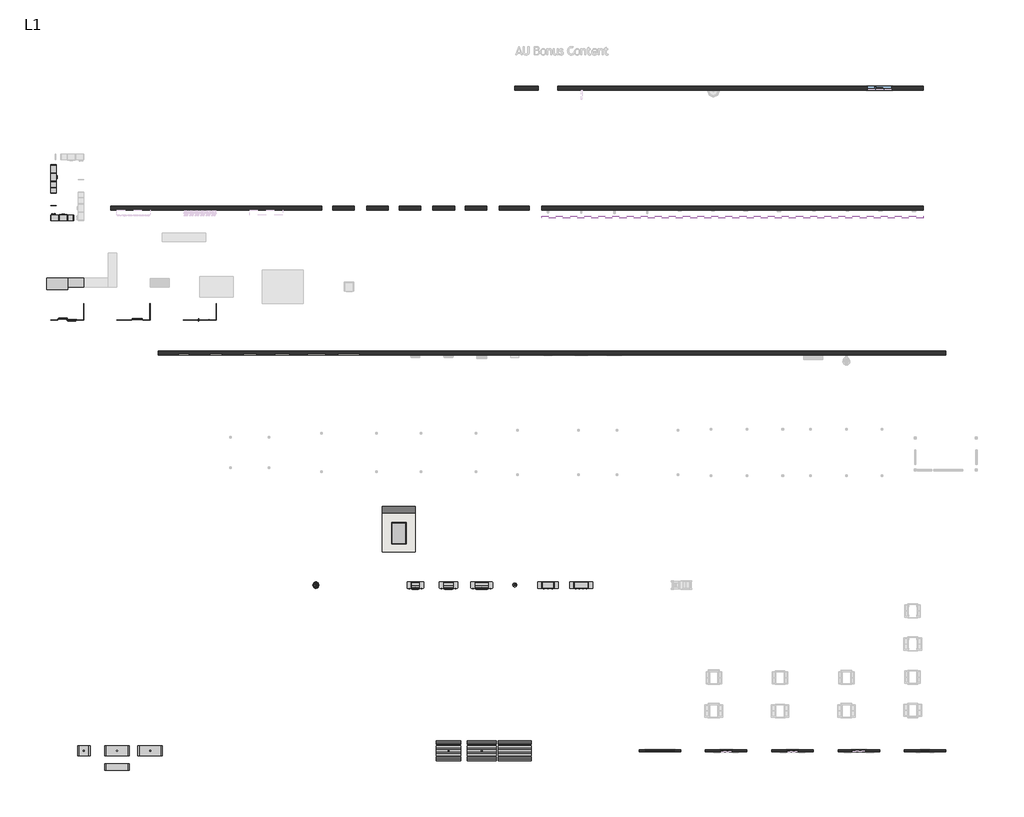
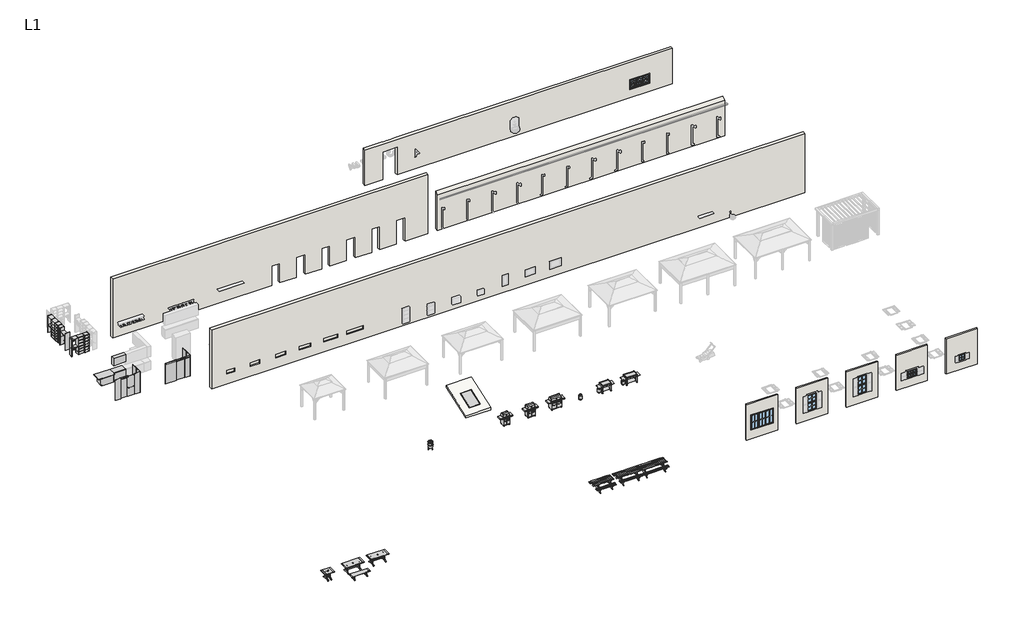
# One storey, part 1 of 3: 15 plates, 11 furniture elements, 9 walls, 8 proxies, 6 windows, 1 pipe segment, 1 roof.
"""IFC4 building model written with IfcOpenShell, lengths in millimetres."""

from ifc_helpers import new_model, si_unit, frame, origin, place, context, project, spatial, polyline, outline, extrude, faceted_brep, transform, mapped, element, save
from components import specialty_equipment_ef091b00, specialty_equipment_e586fb58, flat_top_grill_large_7945bf35, flat_top_grill_small_9eb78ae7, gas_grill_large_af3ab6b7, gas_grill_large_a40fce51, gas_grill_medium_e833fd83, gas_grill_medium_64ab5653, gas_grill_small_96ad8991, solar_panel_standard_bde9ee84, closet_system_one_to_five_bays_closet_system_one_to_five_4d39121e, closet_system_one_to_five_bays_closet_system_one_to_five_d383a4f7, closet_system_one_to_five_bays_closet_system_one_to_five_eccb5896, outdoor_bench_d23ae258, outdoor_table_70c10171, outdoor_table_2cdf0183, picnic_table_6_long_ec7e8ce9, picnic_table_7_long_e703f63e, picnic_table_8_long_d58fb6b3, shower_door_bypass_shower_door_bypass_8a8439de, shower_door_slider_shower_door_slider_6a6f9825, shower_door_swing_shower_door_swing_2a943b00, system_panel_shower_enclosure_54e57cb4, system_panel_shower_enclosure_00ead15c, system_panel_shower_enclosure_034c214d, window_7ac30025, window_a763ad01, window_ae7c3b18, window_735a8cd5, window_b182885c, window_8e2d2a50

model = new_model("IFC4")

# Units and contexts
model_context = context("Model", 3, world=origin())
ifc_project = project(units=[si_unit("LENGTHUNIT", "METRE", prefix="MILLI")], contexts=[model_context])

# Site, building, storey
site = spatial("IfcSite", under=ifc_project)
building = spatial("IfcBuilding", under=site)
storey = spatial("IfcBuildingStorey", under=building, Name="L1", Elevation=0.0)

# Proxies
placement = place(None, origin())
specialty_equipment_shape = specialty_equipment_ef091b00(model_context)
element("IfcBuildingElementProxy", 1, Name="Vertical Smoker : Vertical Smoker", ObjectType="Vertical Smoker : Vertical Smoker", at=placement, inside=storey, context=model_context, shape_type="MappedRepresentation", body=[
    mapped(specialty_equipment_shape, transform((-13050.2137503, -13316.2647312, 0.0), x_axis=(1.0, 0.0, 0.0), y_axis=(0.0, 1.0, 0.0), z_axis=(0.0, 0.0, 1.0))),
])
specialty_equipment_2_shape = specialty_equipment_e586fb58(model_context)
element("IfcBuildingElementProxy", 2, Name="Propane Tank : Propane Tank", ObjectType="Propane Tank : Propane Tank", at=placement, inside=storey, context=model_context, shape_type="MappedRepresentation", body=[
    mapped(specialty_equipment_2_shape, transform((1580.1862497, -13316.2647312, 0.0), x_axis=(1.0, 0.0, 0.0), y_axis=(0.0, 1.0, 0.0), z_axis=(0.0, 0.0, 1.0))),
])
flat_top_grill_large_shape = flat_top_grill_large_7945bf35(model_context)
element("IfcBuildingElementProxy", 3, Name="Flat Top Grill : Large", ObjectType="Flat Top Grill : Large", at=placement, inside=storey, context=model_context, shape_type="MappedRepresentation", body=[
    mapped(flat_top_grill_large_shape, transform((6456.9862497, -13316.2647312, 0.0), x_axis=(1.0, 0.0, 0.0), y_axis=(0.0, 1.0, 0.0), z_axis=(0.0, 0.0, 1.0))),
])
flat_top_grill_small_shape = flat_top_grill_small_9eb78ae7(model_context)
element("IfcBuildingElementProxy", 4, Name="Flat Top Grill : Small", ObjectType="Flat Top Grill : Small", at=placement, inside=storey, context=model_context, shape_type="MappedRepresentation", body=[
    mapped(flat_top_grill_small_shape, transform((4018.5862497, -13316.2647312, 0.0), x_axis=(1.0, 0.0, 0.0), y_axis=(0.0, 1.0, 0.0), z_axis=(0.0, 0.0, 1.0))),
])
gas_grill_large_shape = gas_grill_large_af3ab6b7(model_context)
gas_grill_large_2_shape = gas_grill_large_a40fce51(model_context)
element("IfcBuildingElementProxy", 5, Name="Gas Grill : Large", ObjectType="Gas Grill : Large", at=placement, inside=storey, context=model_context, shape_type="MappedRepresentation", body=[
    mapped(gas_grill_large_shape, transform((-858.2137503, -13316.2647312, 0.0), x_axis=(1.0, 0.0, 0.0), y_axis=(0.0, 1.0, 0.0), z_axis=(0.0, 0.0, 1.0))),
    mapped(gas_grill_large_2_shape, transform((-858.2137503, -13316.2647312, 0.0), x_axis=(1.0, 0.0, 0.0), y_axis=(0.0, 1.0, 0.0), z_axis=(0.0, 0.0, 1.0))),
])
gas_grill_medium_shape = gas_grill_medium_e833fd83(model_context)
gas_grill_medium_2_shape = gas_grill_medium_64ab5653(model_context)
element("IfcBuildingElementProxy", 6, Name="Gas Grill : Medium", ObjectType="Gas Grill : Medium", at=placement, inside=storey, context=model_context, shape_type="MappedRepresentation", body=[
    mapped(gas_grill_medium_shape, transform((-3296.6137503, -13316.2647312, 0.0), x_axis=(1.0, 0.0, 0.0), y_axis=(0.0, 1.0, 0.0), z_axis=(0.0, 0.0, 1.0))),
    mapped(gas_grill_medium_2_shape, transform((-3296.6137503, -13316.2647312, 0.0), x_axis=(1.0, 0.0, 0.0), y_axis=(0.0, 1.0, 0.0), z_axis=(0.0, 0.0, 1.0))),
])
gas_grill_small_shape = gas_grill_small_96ad8991(model_context)
element("IfcBuildingElementProxy", 7, Name="Gas Grill : Small", ObjectType="Gas Grill : Small", at=placement, inside=storey, context=model_context, shape_type="MappedRepresentation", body=[
    mapped(gas_grill_small_shape, transform((-5735.0137503, -13316.2647312, 0.0), x_axis=(1.0, 0.0, 0.0), y_axis=(0.0, 1.0, 0.0), z_axis=(0.0, 0.0, 1.0))),
])
solar_panel_standard_shape = solar_panel_standard_bde9ee84(model_context)
element("IfcBuildingElementProxy", 8, Name="Solar Panel : Standard", ObjectType="Solar Panel : Standard", at=placement, inside=storey, context=model_context, shape_type="MappedRepresentation", body=[
    mapped(solar_panel_standard_shape, transform((-6954.2137503, -9486.0191271, 704.9140924), x_axis=(1.0, 0.0, 0.0), y_axis=(0.0, 0.9486832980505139, 0.316227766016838), z_axis=(0.0, -0.316227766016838, 0.9486832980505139))),
])

# Furniture
element("IfcFurniture", 9, ObjectType="Casework Schematic - Base and Upper : Casework Schematic - Base and Upper", at=placement, inside=storey, context=model_context, shape_type="Brep", body=[
    faceted_brep([(-31312.8137503, 9264.3352688, 876.3), (-31312.8137503, 8629.3352688, 876.3), (-31312.8137503, 8426.1352688, 876.3), (-32824.1137503, 8426.1352688, 876.3), (-32862.2137503, 8426.1352688, 876.3), (-32862.2137503, 9264.3352688, 876.3), (-32824.1137503, 9264.3352688, 876.3), (-31312.8137503, 8426.1352688, 914.4), (-31312.8137503, 8629.3352688, 914.4), (-31312.8137503, 9264.3352688, 914.4), (-32862.2137503, 9264.3352688, 914.4), (-32862.2137503, 8426.1352688, 914.4), (-32862.2137503, 9264.3352688, 889.0), (-32862.2137503, 8426.1352688, 889.0)], [[[0, 1, 2, 3, 4, 5, 6]], [[7, 8, 9, 10, 11]], [[10, 9, 0, 6, 5, 12]], [[7, 2, 1, 0, 9, 8]], [[2, 7, 11, 13, 4, 3]], [[5, 4, 13, 11, 10, 12]]]),
    faceted_brep([(-32557.4137503, 8629.3352688, 876.3), (-32557.4137503, 9238.9352688, 876.3), (-32557.4137503, 9238.9352688, 101.6), (-32557.4137503, 8629.3352688, 101.6), (-31312.8137503, 8629.3352688, 876.3), (-31312.8137503, 8629.3352688, 0.0), (-31312.8137503, 9150.0352688, 0.0), (-31312.8137503, 9150.0352688, 101.6), (-31312.8137503, 9238.9352688, 101.6), (-31312.8137503, 9238.9352688, 876.3), (-32468.5137503, 9150.0352688, 101.6), (-32468.5137503, 8629.3352688, 101.6), (-32468.5137503, 9150.0352688, 0.0), (-32468.5137503, 8629.3352688, 0.0)], [[[0, 1, 2, 3]], [[4, 5, 6, 7, 8, 9]], [[8, 2, 1, 9]], [[8, 7, 10, 11, 3, 2]], [[7, 6, 12, 10]], [[6, 5, 13, 12]], [[5, 4, 0, 3, 11, 13]], [[1, 0, 4, 9]], [[11, 10, 12, 13]]]),
])
element("IfcFurniture", 10, ObjectType="Casework Schematic - Base and Upper : Casework Schematic - Base and Upper", at=placement, inside=storey, context=model_context, shape_type="SolidModel", body=[
    faceted_brep([(-30119.0137503, 8629.3352688, 876.3), (-30131.7137503, 8629.3352688, 876.3), (-30157.1137503, 8629.3352688, 876.3), (-31274.7137503, 8629.3352688, 876.3), (-31300.1137503, 8629.3352688, 876.3), (-31312.8137503, 8629.3352688, 876.3), (-31312.8137503, 8642.0352688, 876.3), (-31312.8137503, 9264.3352688, 876.3), (-31300.1137503, 9264.3352688, 876.3), (-31274.7137503, 9264.3352688, 876.3), (-30157.1137503, 9264.3352688, 876.3), (-30131.7137503, 9264.3352688, 876.3), (-30119.0137503, 9264.3352688, 876.3), (-30119.0137503, 8642.0352688, 876.3), (-30119.0137503, 9264.3352688, 914.4), (-30131.7137503, 9264.3352688, 914.4), (-31300.1137503, 9264.3352688, 914.4), (-31312.8137503, 9264.3352688, 914.4), (-31312.8137503, 8642.0352688, 914.4), (-31312.8137503, 8629.3352688, 914.4), (-31300.1137503, 8629.3352688, 914.4), (-30131.7137503, 8629.3352688, 914.4), (-30119.0137503, 8629.3352688, 914.4), (-30119.0137503, 8642.0352688, 914.4), (-31312.8137503, 9264.3352688, 889.0), (-30119.0137503, 9264.3352688, 889.0), (-31312.8137503, 8629.3352688, 889.0), (-30119.0137503, 8629.3352688, 889.0)], [[[0, 1, 2, 3, 4, 5, 6, 7, 8, 9, 10, 11, 12, 13]], [[14, 15, 16, 17, 18, 19, 20, 21, 22, 23]], [[12, 11, 10, 9, 8, 7, 24, 17, 16, 15, 14, 25]], [[6, 5, 26, 19, 18, 17, 24, 7]], [[1, 0, 27, 22, 21, 20, 19, 26, 5, 4, 3, 2]], [[27, 0, 13, 12, 25, 14, 23, 22]]]),
    faceted_brep([(-31312.8137503, 8629.3352688, 876.3), (-31312.8137503, 9238.9352688, 876.3), (-31312.8137503, 9238.9352688, 101.6), (-31312.8137503, 9150.0352688, 101.6), (-31312.8137503, 9150.0352688, 0.0), (-31312.8137503, 8629.3352688, 0.0), (-31312.8137503, 8629.3352688, 101.6), (-30119.0137503, 8629.3352688, 876.3), (-30119.0137503, 8629.3352688, 101.6), (-30119.0137503, 8629.3352688, 0.0), (-30119.0137503, 9150.0352688, 0.0), (-30119.0137503, 9150.0352688, 101.6), (-30119.0137503, 9238.9352688, 101.6), (-30119.0137503, 9238.9352688, 876.3), (-30131.7137503, 8629.3352688, 0.0), (-31300.1137503, 8629.3352688, 0.0)], [[[0, 1, 2, 3, 4, 5, 6]], [[7, 8, 9, 10, 11, 12, 13]], [[2, 1, 13, 12]], [[3, 2, 12, 11]], [[4, 3, 11, 10]], [[5, 4, 10, 9, 14, 15]], [[0, 6, 5, 15, 14, 9, 8, 7]], [[1, 0, 7, 13]]]),
    extrude(outline(polyline([(-31312.8137503, 8629.3352688), (-31312.8137503, 8959.5352688), (-30119.0137503, 8959.5352688), (-30119.0137503, 8629.3352688), (-31312.8137503, 8629.3352688)])), frame((0.0, 0.0, 1676.4), z_axis=(0.0, 0.0, 1.0), x_axis=(1.0, 0.0, 0.0)), (0.0, 0.0, 1.0), 762.0),
])
closet_system_one_to_five_bays_closet_system_one_to_five_shape = closet_system_one_to_five_bays_closet_system_one_to_five_4d39121e(model_context)
closet_system_one_to_five_bays_closet_system_one_to_five_2_shape = closet_system_one_to_five_bays_closet_system_one_to_five_d383a4f7(model_context)
element("IfcFurniture", 11, ObjectType="Closet System (One to Five Bays) : Closet System (One to Five Bays)", at=placement, inside=storey, context=model_context, shape_type="MappedRepresentation", body=[
    mapped(closet_system_one_to_five_bays_closet_system_one_to_five_shape, transform((-32557.4137503, 13506.1352688, 0.0), x_axis=(1.0, 0.0, 0.0), y_axis=(0.0, 1.0, 0.0), z_axis=(0.0, 0.0, 1.0))),
    mapped(closet_system_one_to_five_bays_closet_system_one_to_five_2_shape, transform((-32557.4137503, 13506.1352688, 0.0), x_axis=(1.0, 0.0, 0.0), y_axis=(0.0, 1.0, 0.0), z_axis=(0.0, 0.0, 1.0))),
])
closet_system_one_to_five_bays_closet_system_one_to_five_3_shape = closet_system_one_to_five_bays_closet_system_one_to_five_eccb5896(model_context)
element("IfcFurniture", 12, ObjectType="Closet System (One to Five Bays) : Closet System (One to Five Bays)", at=placement, inside=storey, context=model_context, shape_type="MappedRepresentation", body=[
    mapped(closet_system_one_to_five_bays_closet_system_one_to_five_3_shape, transform((-32557.4137503, 17620.9352688, 0.0), x_axis=(0.0, -1.0, 0.0), y_axis=(1.0, 0.0, 0.0), z_axis=(0.0, 0.0, 1.0))),
])
outdoor_bench_shape = outdoor_bench_d23ae258(model_context)
element("IfcFurniture", 13, ObjectType="Outdoor Bench : 5'-11\"L x 1'-6\"W", at=placement, inside=storey, context=model_context, shape_type="MappedRepresentation", body=[
    mapped(outdoor_bench_shape, transform((-27680.6137503, -26702.0647312, 0.0), x_axis=(1.0, 0.0, 0.0), y_axis=(0.0, 1.0, 0.0), z_axis=(0.0, 0.0, 1.0))),
])
outdoor_table_shape = outdoor_table_70c10171(model_context)
element("IfcFurniture", 14, ObjectType="Outdoor Table : 5'-11\"L x 2'-6\"W", at=placement, inside=storey, context=model_context, shape_type="MappedRepresentation", body=[
    mapped(outdoor_table_shape, transform((-27680.6137503, -25508.2647312, 0.0), x_axis=(1.0, 0.0, 0.0), y_axis=(0.0, 1.0, 0.0), z_axis=(0.0, 0.0, 1.0))),
])
element("IfcFurniture", 15, ObjectType="Outdoor Table : 5'-11\"L x 2'-6\"W", at=placement, inside=storey, context=model_context, shape_type="MappedRepresentation", body=[
    mapped(outdoor_table_shape, transform((-25242.2137503, -25508.2647312, 0.0), x_axis=(1.0, 0.0, 0.0), y_axis=(0.0, 1.0, 0.0), z_axis=(0.0, 0.0, 1.0))),
])
outdoor_table_2_shape = outdoor_table_2cdf0183(model_context)
element("IfcFurniture", 16, ObjectType="Outdoor Table : 3'-0\"L x 2'-6\"W", at=placement, inside=storey, context=model_context, shape_type="MappedRepresentation", body=[
    mapped(outdoor_table_2_shape, transform((-30119.0137503, -25508.2647312, 0.0), x_axis=(1.0, 0.0, 0.0), y_axis=(0.0, 1.0, 0.0), z_axis=(0.0, 0.0, 1.0))),
])
picnic_table_6_long_shape = picnic_table_6_long_ec7e8ce9(model_context)
element("IfcFurniture", 17, ObjectType="Picnic Table : 6' Long", at=placement, inside=storey, context=model_context, shape_type="MappedRepresentation", body=[
    mapped(picnic_table_6_long_shape, transform((-3296.6137503, -25508.2647312, 0.0), x_axis=(1.0, 0.0, 0.0), y_axis=(0.0, 1.0, 0.0), z_axis=(0.0, 0.0, 1.0))),
])
picnic_table_7_long_shape = picnic_table_7_long_e703f63e(model_context)
element("IfcFurniture", 18, ObjectType="Picnic Table : 7' Long", at=placement, inside=storey, context=model_context, shape_type="MappedRepresentation", body=[
    mapped(picnic_table_7_long_shape, transform((-858.2137503, -25508.2647312, 0.0), x_axis=(1.0, 0.0, 0.0), y_axis=(0.0, 1.0, 0.0), z_axis=(0.0, 0.0, 1.0))),
])
picnic_table_8_long_shape = picnic_table_8_long_d58fb6b3(model_context)
element("IfcFurniture", 19, ObjectType="Picnic Table : 8' Long", at=placement, inside=storey, context=model_context, shape_type="MappedRepresentation", body=[
    mapped(picnic_table_8_long_shape, transform((1580.1862497, -25508.2647312, 0.0), x_axis=(1.0, 0.0, 0.0), y_axis=(0.0, 1.0, 0.0), z_axis=(0.0, 0.0, 1.0))),
])

# Pipe segment
element("IfcPipeSegment", 20, ObjectType="Gutter - Bevel 5\" x 5\"", at=placement, inside=storey, context=model_context, shape_type="SweptSolid", body=[
    extrude(outline(polyline([(13824.5781195, 3473.5377675), (13748.3781195, 3473.5377675), (13710.2781195, 3575.05), (13697.5781195, 3575.05), (13697.5781195, 3587.75), (13710.2781195, 3587.75), (13710.2781195, 3584.575), (13700.7531195, 3584.575), (13700.7531195, 3578.225), (13712.6404168, 3578.225), (13750.7404168, 3476.7127675), (13821.4031195, 3476.7127675), (13821.4031195, 3600.45), (13824.5781195, 3600.45), (13824.5781195, 3473.5377675)])), frame((3561.3862497, 0.0, 0.0), z_axis=(1.0, 0.0, 0.0), x_axis=(0.0, 1.0, 0.0)), (0.0, 0.0, 1.0), 28041.6),
])

# Plates
shower_door_bypass_shower_door_bypass_shape = shower_door_bypass_shower_door_bypass_8a8439de(model_context)
element("IfcPlate", 21, ObjectType="Shower Door - Bypass : Shower Door - Bypass", at=placement, inside=storey, context=model_context, shape_type="MappedRepresentation", body=[
    mapped(shower_door_bypass_shower_door_bypass_shape, transform((-31338.2137503, 6190.9352688, 0.0), x_axis=(1.0, 0.0, 0.0), y_axis=(0.0, 1.0, 0.0), z_axis=(0.0, 0.0, 1.0))),
])
shower_door_slider_shower_door_slider_shape = shower_door_slider_shower_door_slider_6a6f9825(model_context)
element("IfcPlate", 22, ObjectType="Shower Door - Slider : Shower Door - Slider", at=placement, inside=storey, context=model_context, shape_type="MappedRepresentation", body=[
    mapped(shower_door_slider_shower_door_slider_shape, transform((-26194.7137503, 6190.9352688, 0.0), x_axis=(1.0, 0.0, 0.0), y_axis=(0.0, 1.0, 0.0), z_axis=(0.0, 0.0, 1.0))),
])
shower_door_swing_shower_door_swing_shape = shower_door_swing_shower_door_swing_2a943b00(model_context)
element("IfcPlate", 23, ObjectType="Shower Door - Swing : Shower Door - Swing", at=placement, inside=storey, context=model_context, shape_type="MappedRepresentation", body=[
    mapped(shower_door_swing_shower_door_swing_shape, transform((-21317.9137503, 6190.9352688, 0.0), x_axis=(1.0, 0.0, 0.0), y_axis=(0.0, 1.0, 0.0), z_axis=(0.0, 0.0, 1.0))),
])
system_panel_shower_enclosure_shape = system_panel_shower_enclosure_54e57cb4(model_context)
element("IfcPlate", 24, ObjectType="System Panel : Shower Enclosure", at=placement, inside=storey, context=model_context, shape_type="MappedRepresentation", body=[
    mapped(system_panel_shower_enclosure_shape, transform((-32290.7137503, 6190.9352688, 0.0), x_axis=(1.0, 0.0, 0.0), y_axis=(0.0, 1.0, 0.0), z_axis=(0.0, 0.0, 1.0))),
])
element("IfcPlate", 25, ObjectType="System Panel : Shower Enclosure", at=placement, inside=storey, context=model_context, shape_type="MappedRepresentation", body=[
    mapped(system_panel_shower_enclosure_shape, transform((-30385.7137503, 6190.9352688, 0.0), x_axis=(1.0, 0.0, 0.0), y_axis=(0.0, 1.0, 0.0), z_axis=(0.0, 0.0, 1.0))),
])
element("IfcPlate", 26, ObjectType="System Panel : Shower Enclosure", at=placement, inside=storey, context=model_context, shape_type="MappedRepresentation", body=[
    mapped(system_panel_shower_enclosure_shape, transform((-25508.9137503, 6190.9352688, 0.0), x_axis=(1.0, 0.0, 0.0), y_axis=(0.0, 1.0, 0.0), z_axis=(0.0, 0.0, 1.0))),
])
element("IfcPlate", 27, ObjectType="System Panel : Shower Enclosure", at=placement, inside=storey, context=model_context, shape_type="MappedRepresentation", body=[
    mapped(system_panel_shower_enclosure_shape, transform((-20632.1137503, 6190.9352688, 0.0), x_axis=(1.0, 0.0, 0.0), y_axis=(0.0, 1.0, 0.0), z_axis=(0.0, 0.0, 1.0))),
])
system_panel_shower_enclosure_2_shape = system_panel_shower_enclosure_00ead15c(model_context)
element("IfcPlate", 28, ObjectType="System Panel : Shower Enclosure", at=placement, inside=storey, context=model_context, shape_type="MappedRepresentation", body=[
    mapped(system_panel_shower_enclosure_2_shape, transform((-30119.0137503, 6495.7352688, 0.0), x_axis=(0.0, 1.0, 0.0), y_axis=(-1.0, 0.0, 0.0), z_axis=(0.0, 0.0, 1.0))),
])
element("IfcPlate", 29, ObjectType="System Panel : Shower Enclosure", at=placement, inside=storey, context=model_context, shape_type="MappedRepresentation", body=[
    mapped(system_panel_shower_enclosure_2_shape, transform((-30119.0137503, 7105.3352688, 0.0), x_axis=(0.0, 1.0, 0.0), y_axis=(-1.0, 0.0, 0.0), z_axis=(0.0, 0.0, 1.0))),
])
element("IfcPlate", 30, ObjectType="System Panel : Shower Enclosure", at=placement, inside=storey, context=model_context, shape_type="MappedRepresentation", body=[
    mapped(system_panel_shower_enclosure_2_shape, transform((-25242.2137503, 6495.7352688, 0.0), x_axis=(0.0, 1.0, 0.0), y_axis=(-1.0, 0.0, 0.0), z_axis=(0.0, 0.0, 1.0))),
])
element("IfcPlate", 31, ObjectType="System Panel : Shower Enclosure", at=placement, inside=storey, context=model_context, shape_type="MappedRepresentation", body=[
    mapped(system_panel_shower_enclosure_2_shape, transform((-25242.2137503, 7105.3352688, 0.0), x_axis=(0.0, 1.0, 0.0), y_axis=(-1.0, 0.0, 0.0), z_axis=(0.0, 0.0, 1.0))),
])
element("IfcPlate", 32, ObjectType="System Panel : Shower Enclosure", at=placement, inside=storey, context=model_context, shape_type="MappedRepresentation", body=[
    mapped(system_panel_shower_enclosure_2_shape, transform((-20365.4137503, 6495.7352688, 0.0), x_axis=(0.0, 1.0, 0.0), y_axis=(-1.0, 0.0, 0.0), z_axis=(0.0, 0.0, 1.0))),
])
element("IfcPlate", 33, ObjectType="System Panel : Shower Enclosure", at=placement, inside=storey, context=model_context, shape_type="MappedRepresentation", body=[
    mapped(system_panel_shower_enclosure_2_shape, transform((-20365.4137503, 7105.3352688, 0.0), x_axis=(0.0, 1.0, 0.0), y_axis=(-1.0, 0.0, 0.0), z_axis=(0.0, 0.0, 1.0))),
])
system_panel_shower_enclosure_3_shape = system_panel_shower_enclosure_034c214d(model_context)
element("IfcPlate", 34, ObjectType="System Panel : Shower Enclosure", at=placement, inside=storey, context=model_context, shape_type="MappedRepresentation", body=[
    mapped(system_panel_shower_enclosure_3_shape, transform((-27147.2137503, 6190.9352688, 0.0), x_axis=(1.0, 0.0, 0.0), y_axis=(0.0, 1.0, 0.0), z_axis=(0.0, 0.0, 1.0))),
])
element("IfcPlate", 35, ObjectType="System Panel : Shower Enclosure", at=placement, inside=storey, context=model_context, shape_type="MappedRepresentation", body=[
    mapped(system_panel_shower_enclosure_3_shape, transform((-22270.4137503, 6190.9352688, 0.0), x_axis=(1.0, 0.0, 0.0), y_axis=(0.0, 1.0, 0.0), z_axis=(0.0, 0.0, 1.0))),
])

# Roof
element("IfcRoof", 36, ObjectType="Generic - 9\"", at=placement, inside=storey, context=model_context, shape_type="SweptSolid", body=[
    extrude(outline(polyline([(-10877.8647312, 240.9655577), (-7525.0647312, 1358.5655577), (-7525.0647312, 1117.6), (-10877.8647312, 0.0), (-10877.8647312, 240.9655577)])), frame((-8173.4137503, 0.0, 0.0), z_axis=(1.0, 0.0, 0.0), x_axis=(0.0, 1.0, 0.0)), (0.0, 0.0, 1.0), 2438.4),
])

# Walls
element("IfcWall", 37, ObjectType="Generic - 5\"", at=placement, inside=storey, context=model_context, shape_type="SweptSolid", body=[
    extrude(outline(polyline([(0.0, 15600.9862497), (0.0, 18648.9862497), (3657.6, 18648.9862497), (3657.6, 15600.9862497), (0.0, 15600.9862497)]), holes=[polyline([(2565.4, 17556.7862497), (914.4, 17556.7862497), (914.4, 16693.1862497), (2565.4, 16693.1862497), (2565.4, 17556.7862497)])]), frame((0.0, -25571.7647312, 0.0), z_axis=(0.0, 1.0, 0.0), x_axis=(0.0, 0.0, 1.0)), (0.0, 0.0, 1.0), 127.0),
])
element("IfcWall", 38, ObjectType="Generic - 5\"", at=placement, inside=storey, context=model_context, shape_type="SweptSolid", body=[
    extrude(outline(polyline([(0.0, 20477.7862497), (0.0, 23525.7862497), (3657.6, 23525.7862497), (3657.6, 20477.7862497), (0.0, 20477.7862497)]), holes=[polyline([(2743.2, 22433.5862497), (914.4, 22433.5862497), (914.4, 21569.9862497), (2743.2, 21569.9862497), (2743.2, 22433.5862497)])]), frame((0.0, -25571.7647312, 0.0), z_axis=(0.0, 1.0, 0.0), x_axis=(0.0, 0.0, 1.0)), (0.0, 0.0, 1.0), 127.0),
])
element("IfcWall", 39, ObjectType="Generic - 5\"", at=placement, inside=storey, context=model_context, shape_type="SweptSolid", body=[
    extrude(outline(polyline([(0.0, 25354.5862497), (0.0, 28402.5862497), (3657.6, 28402.5862497), (3657.6, 25354.5862497), (0.0, 25354.5862497)]), holes=[polyline([(1651.0, 27399.2862497), (914.4, 27399.2862497), (914.4, 26357.8862497), (1651.0, 26357.8862497), (1651.0, 27399.2862497)])]), frame((0.0, -25571.7647312, 0.0), z_axis=(0.0, 1.0, 0.0), x_axis=(0.0, 0.0, 1.0)), (0.0, 0.0, 1.0), 127.0),
])
element("IfcWall", 40, ObjectType="Generic - 5\"", at=placement, inside=storey, context=model_context, shape_type="SweptSolid", body=[
    extrude(outline(polyline([(0.0, 30231.3862497), (0.0, 33279.3862497), (3657.6, 33279.3862497), (3657.6, 30231.3862497), (0.0, 30231.3862497)]), holes=[polyline([(1524.0, 32060.1862497), (914.4, 32060.1862497), (914.4, 31450.5862497), (1524.0, 31450.5862497), (1524.0, 32060.1862497)])]), frame((0.0, -25571.7647312, 0.0), z_axis=(0.0, 1.0, 0.0), x_axis=(0.0, 0.0, 1.0)), (0.0, 0.0, 1.0), 127.0),
])
element("IfcWall", 41, ObjectType="Generic - 5\"", at=placement, inside=storey, context=model_context, shape_type="SweptSolid", body=[
    extrude(outline(polyline([(0.0, 10724.1862497), (0.0, 13772.1862497), (3657.6, 13772.1862497), (3657.6, 10724.1862497), (0.0, 10724.1862497)]), holes=[polyline([(2438.4, 13327.6862497), (914.4, 13327.6862497), (914.4, 11168.6862497), (2438.4, 11168.6862497), (2438.4, 13327.6862497)])]), frame((0.0, -25571.7647312, 0.0), z_axis=(0.0, 1.0, 0.0), x_axis=(0.0, 0.0, 1.0)), (0.0, 0.0, 1.0), 127.0),
])
element("IfcWall", 42, ObjectType="Generic 12\"", at=placement, inside=storey, context=model_context, shape_type="Brep", body=[
    faceted_brep([(-24632.6137503, 3600.1352688, 0.0), (33279.3862497, 3600.1352688, 0.0), (33279.3862497, 3600.1352688, 6096.0), (-24632.6137503, 3600.1352688, 6096.0), (-22365.6637503, 3600.1352688, 1371.6), (-22365.6637503, 3600.1352688, 1003.3), (-23165.7637503, 3600.1352688, 1003.3), (-23165.7637503, 3600.1352688, 1371.6), (-19952.6637503, 3600.1352688, 1371.6), (-19952.6637503, 3600.1352688, 1003.3), (-20854.3637503, 3600.1352688, 1003.3), (-20854.3637503, 3600.1352688, 1371.6), (-17399.9637503, 3600.1352688, 1371.6), (-17399.9637503, 3600.1352688, 1003.3), (-18377.8637503, 3600.1352688, 1003.3), (-18377.8637503, 3600.1352688, 1371.6), (-14961.5637503, 3600.1352688, 1371.6), (-14961.5637503, 3600.1352688, 1003.3), (-16091.8637503, 3600.1352688, 1003.3), (-16091.8637503, 3600.1352688, 1371.6), (-12345.3637503, 3600.1352688, 1371.6), (-12345.3637503, 3600.1352688, 1003.3), (-13678.8637503, 3600.1352688, 1003.3), (-13678.8637503, 3600.1352688, 1371.6), (-9843.4637503, 3600.1352688, 1371.6), (-9843.4637503, 3600.1352688, 1003.3), (-11456.3637503, 3600.1352688, 1003.3), (-11456.3637503, 3600.1352688, 1371.6), (-24632.6137503, 3904.9352688, 0.0), (-24632.6137503, 3904.9352688, 6096.0), (33279.3862497, 3904.9352688, 6096.0), (33279.3862497, 3904.9352688, 0.0), (-22365.6637503, 3720.7852688, 1371.6), (-22365.6637503, 3720.7852688, 1003.3), (-23165.7637503, 3720.7852688, 1003.3), (-23165.7637503, 3720.7852688, 1371.6), (-19952.6637503, 3720.7852688, 1371.6), (-19952.6637503, 3720.7852688, 1003.3), (-20854.3637503, 3720.7852688, 1003.3), (-20854.3637503, 3720.7852688, 1371.6), (-17399.9637503, 3720.7852688, 1371.6), (-17399.9637503, 3720.7852688, 1003.3), (-18377.8637503, 3720.7852688, 1003.3), (-18377.8637503, 3720.7852688, 1371.6), (-14961.5637503, 3720.7852688, 1371.6), (-14961.5637503, 3720.7852688, 1003.3), (-16091.8637503, 3720.7852688, 1003.3), (-16091.8637503, 3720.7852688, 1371.6), (-12345.3637503, 3720.7852688, 1371.6), (-12345.3637503, 3720.7852688, 1003.3), (-13678.8637503, 3720.7852688, 1003.3), (-13678.8637503, 3720.7852688, 1371.6), (-9843.4637503, 3720.7852688, 1371.6), (-9843.4637503, 3720.7852688, 1003.3), (-11456.3637503, 3720.7852688, 1003.3), (-11456.3637503, 3720.7852688, 1371.6)], [[[0, 1, 2, 3], [4, 5, 6, 7], [8, 9, 10, 11], [12, 13, 14, 15], [16, 17, 18, 19], [20, 21, 22, 23], [24, 25, 26, 27]], [[28, 29, 30, 31]], [[1, 0, 28, 31]], [[2, 1, 31, 30]], [[3, 2, 30, 29]], [[0, 3, 29, 28]], [[32, 33, 5, 4]], [[33, 34, 6, 5]], [[34, 35, 7, 6]], [[35, 32, 4, 7]], [[32, 35, 34, 33]], [[36, 37, 9, 8]], [[37, 38, 10, 9]], [[38, 39, 11, 10]], [[39, 36, 8, 11]], [[36, 39, 38, 37]], [[40, 41, 13, 12]], [[41, 42, 14, 13]], [[42, 43, 15, 14]], [[43, 40, 12, 15]], [[40, 43, 42, 41]], [[44, 45, 17, 16]], [[45, 46, 18, 17]], [[46, 47, 19, 18]], [[47, 44, 16, 19]], [[44, 47, 46, 45]], [[48, 49, 21, 20]], [[49, 50, 22, 21]], [[50, 51, 23, 22]], [[51, 48, 20, 23]], [[48, 51, 50, 49]], [[52, 53, 25, 24]], [[53, 54, 26, 25]], [[54, 55, 27, 26]], [[55, 52, 24, 27]], [[52, 55, 54, 53]]]),
])
element("IfcWall", 43, ObjectType="Generic 12\"", at=placement, inside=storey, context=model_context, shape_type="SweptSolid", body=[
    extrude(outline(polyline([(0.0, 2646.9862497), (6096.0, 2646.9862497), (6096.0, -28135.683801), (0.0, -28135.683801), (0.0, -12609.933801), (1974.85, -12609.933801), (1974.85, -11809.833801), (0.0, -11809.833801), (0.0, -10222.333801), (2025.65, -10222.333801), (2025.65, -9320.633801), (0.0, -9320.633801), (0.0, -7733.133801), (2076.45, -7733.133801), (2076.45, -6933.033801), (0.0, -6933.033801), (0.0, -5345.533801), (2127.25, -5345.533801), (2127.25, -4443.833801), (0.0, -4443.833801), (0.0, -2856.333801), (2381.25, -2856.333801), (2381.25, -2056.233801), (0.0, -2056.233801), (0.0, -468.733801), (2432.05, -468.733801), (2432.05, 432.966199), (0.0, 432.966199), (0.0, 2646.9862497)])), frame((0.0, 14281.7781195, 0.0), z_axis=(0.0, 1.0, 0.0), x_axis=(0.0, 0.0, 1.0)), (0.0, 0.0, 1.0), 304.8),
])
element("IfcWall", 44, ObjectType="Generic 12\"", at=placement, inside=storey, context=model_context, shape_type="SweptSolid", body=[
    extrude(outline(polyline([(14281.7781195, 0.0), (14281.7781195, 3657.6), (14586.5781195, 3886.2), (14586.5781195, 0.0), (14281.7781195, 0.0)])), frame((3561.3862497, 0.0, 0.0), z_axis=(1.0, 0.0, 0.0), x_axis=(0.0, 1.0, 0.0)), (0.0, 0.0, 1.0), 28041.6),
])
element("IfcWall", 45, ObjectType="Generic 12\"", at=placement, inside=storey, context=model_context, shape_type="Brep", body=[
    faceted_brep([(31602.9862497, 23107.3352688, 0.0), (31602.9862497, 23107.3352688, 3657.6), (4678.5911283, 23107.3352688, 3657.6), (3358.5813711, 23107.3352688, 3657.6), (1580.1862497, 23107.3352688, 3657.6), (1580.1862497, 23107.3352688, 0.0), (3307.3862497, 23107.3352688, 0.0), (3307.3862497, 23107.3352688, 2387.6), (3307.3862497, 23107.3352688, 2844.8), (3320.7472836, 23107.3352688, 2844.8), (4716.4252158, 23107.3352688, 2844.8), (4729.7862497, 23107.3352688, 2844.8), (4729.7862497, 23107.3352688, 2387.6), (4729.7862497, 23107.3352688, 0.0), (29316.9862497, 23107.3352688, 1828.8), (29316.9862497, 23107.3352688, 914.4), (27488.1862497, 23107.3352688, 914.4), (27488.1862497, 23107.3352688, 1828.8), (31602.9862497, 23412.1352688, 3657.6), (31602.9862497, 23412.1352688, 0.0), (4729.7862497, 23412.1352688, 0.0), (4729.7862497, 23412.1352688, 2844.8), (4716.4252158, 23412.1352688, 2844.8), (4450.3862497, 23412.1352688, 2844.8), (4170.9862497, 23412.1352688, 2844.8), (3866.1862497, 23412.1352688, 2844.8), (3586.7862497, 23412.1352688, 2844.8), (3320.7472836, 23412.1352688, 2844.8), (3307.3862497, 23412.1352688, 2844.8), (3307.3862497, 23412.1352688, 0.0), (1580.1862497, 23412.1352688, 0.0), (1580.1862497, 23412.1352688, 3657.6), (3358.5813711, 23412.1352688, 3657.6), (3586.7862497, 23412.1352688, 3657.6), (3866.1862497, 23412.1352688, 3657.6), (4170.9862497, 23412.1352688, 3657.6), (4450.3862497, 23412.1352688, 3657.6), (4678.5911283, 23412.1352688, 3657.6), (29316.9862497, 23412.1352688, 1828.8), (27488.1862497, 23412.1352688, 1828.8), (27488.1862497, 23412.1352688, 914.4), (29316.9862497, 23412.1352688, 914.4)], [[[0, 1, 2, 3, 4, 5, 6, 7, 8, 9, 10, 11, 12, 13], [14, 15, 16, 17]], [[18, 19, 20, 21, 22, 23, 24, 25, 26, 27, 28, 29, 30, 31, 32, 33, 34, 35, 36, 37], [38, 39, 40, 41]], [[19, 0, 13, 20]], [[5, 30, 29, 6]], [[1, 0, 19, 18]], [[4, 3, 2, 1, 18, 37, 36, 35, 34, 33, 32, 31]], [[5, 4, 31, 30]], [[21, 11, 10, 9, 8, 28, 27, 26, 25, 24, 23, 22]], [[28, 8, 7, 6, 29]], [[11, 21, 20, 13, 12]], [[15, 14, 38, 41]], [[16, 15, 41, 40]], [[17, 16, 40, 39]], [[14, 17, 39, 38]]]),
])

# Windows
window_shape = window_7ac30025(model_context)
element("IfcWindow", 46, ObjectType="Window-Awning-Double-Vertical : 34\" x 65\"", at=placement, inside=storey, context=model_context, shape_type="MappedRepresentation", body=[
    mapped(window_shape, transform((17124.9862497, -25508.2647312, 0.0), x_axis=(1.0, 0.0, 0.0), y_axis=(0.0, 1.0, 0.0), z_axis=(0.0, 0.0, 1.0))),
])
window_2_shape = window_a763ad01(model_context)
element("IfcWindow", 47, ObjectType="Window-Awning-Double-Vertical : 34\" x 72\"", at=placement, inside=storey, context=model_context, shape_type="MappedRepresentation", body=[
    mapped(window_2_shape, transform((22001.7862497, -25508.2647312, 0.0), x_axis=(1.0, 0.0, 0.0), y_axis=(0.0, 1.0, 0.0), z_axis=(0.0, 0.0, 1.0))),
])
window_3_shape = window_ae7c3b18(model_context)
element("IfcWindow", 48, ObjectType="Window-Awning-Double-Vertical : 41\" x 29\"", at=placement, inside=storey, context=model_context, shape_type="MappedRepresentation", body=[
    mapped(window_3_shape, transform((26878.5862497, -25508.2647312, 0.0), x_axis=(1.0, 0.0, 0.0), y_axis=(0.0, 1.0, 0.0), z_axis=(0.0, 0.0, 1.0))),
])
window_4_shape = window_735a8cd5(model_context)
element("IfcWindow", 49, ObjectType="Window-Awning-Single : 24\" x 24\"", at=placement, inside=storey, context=model_context, shape_type="MappedRepresentation", body=[
    mapped(window_4_shape, transform((31755.3862497, -25508.2647312, 0.0), x_axis=(1.0, 0.0, 0.0), y_axis=(0.0, 1.0, 0.0), z_axis=(0.0, 0.0, 1.0))),
])
window_5_shape = window_b182885c(model_context)
element("IfcWindow", 50, ObjectType="Window-Casement-Triple : 85\" x 60\"", at=placement, inside=storey, context=model_context, shape_type="MappedRepresentation", body=[
    mapped(window_5_shape, transform((12248.1862497, -25508.2647312, 0.0), x_axis=(1.0, 0.0, 0.0), y_axis=(0.0, 1.0, 0.0), z_axis=(0.0, 0.0, 1.0))),
])
window_6_shape = window_8e2d2a50(model_context)
element("IfcWindow", 51, ObjectType="Window-Double-Hung-Triple : 72\" x 36\"", at=placement, inside=storey, context=model_context, shape_type="MappedRepresentation", body=[
    mapped(window_6_shape, transform((28402.5862497, 23259.7352688, 0.0), x_axis=(-1.0, 0.0, 0.0), y_axis=(0.0, -1.0, 0.0), z_axis=(0.0, 0.0, 1.0))),
])

save(model, "model.ifc")
